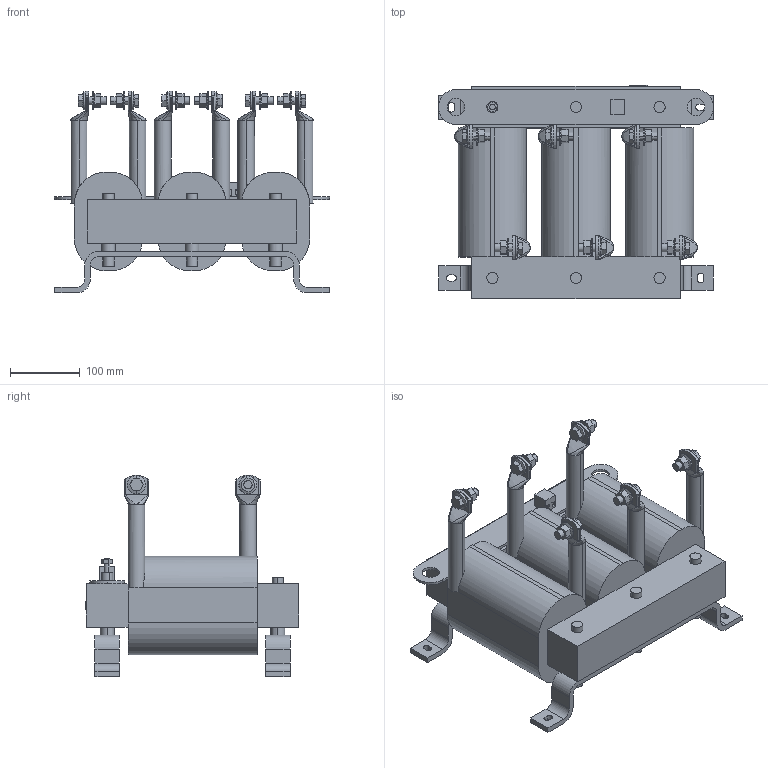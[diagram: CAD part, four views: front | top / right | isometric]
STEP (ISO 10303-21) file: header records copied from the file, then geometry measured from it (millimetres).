
FILE_DESCRIPTION (( 'STEP AP214' ), '1' );
FILE_NAME ('00Z1BX0-0029.STEP', '2024-05-15T08:23:25', ( '' ), ( '' ), 'SwSTEP 2.0', 'SolidWorks 2022', '' );
FILE_SCHEMA (( 'AUTOMOTIVE_DESIGN' ));
Length unit declared in the file: millimetre
Products named in the file (1): 00Z1BX0-0029
Bounding box: 395 x 306.72 x 290 mm (x, y, z)
Volume: 9716596.7 mm3; surface area: 576509.9 mm2
Topology: 1 solids, 3 shells, 611 faces, 1530 edges, 980 vertices
Faces by surface type: plane 304, cylinder 210, bspline 61, cone 24, torus 12
Entity records: 22777 total; most frequent: CARTESIAN_POINT 8387, ORIENTED_EDGE 3060, DIRECTION 2688, EDGE_CURVE 1530, VERTEX_POINT 980, AXIS2_PLACEMENT_3D 953, VECTOR 782, LINE 782
